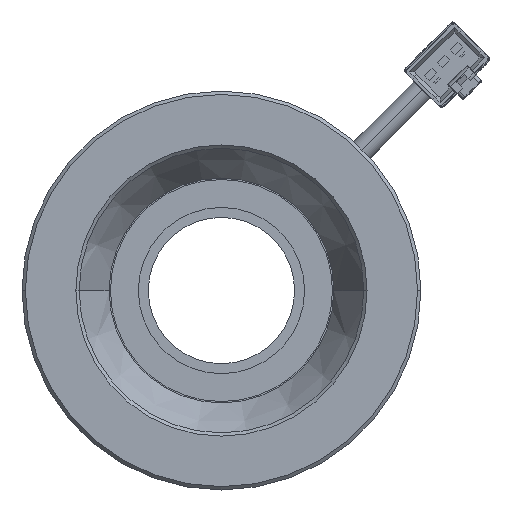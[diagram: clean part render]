
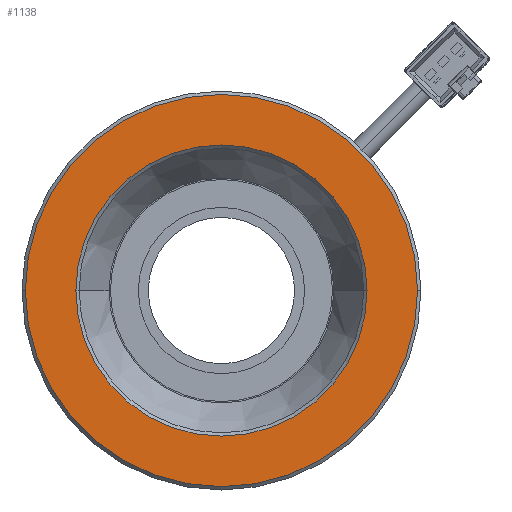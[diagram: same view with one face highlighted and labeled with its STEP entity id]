
A CAD part, front view. The second image highlights one B-rep face of the part: STEP entity #1138.
In plain terms, the highlighted planar face has unit normal (0, -1, 0).
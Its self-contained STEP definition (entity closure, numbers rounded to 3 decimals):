
#327=CARTESIAN_POINT('',(0.,-18.,0.));
#328=DIRECTION('',(0.,1.,0.));
#329=DIRECTION('',(1.,0.,0.));
#330=AXIS2_PLACEMENT_3D('',#327,#328,#329);
#332=CARTESIAN_POINT('',(0.,-18.,0.));
#333=DIRECTION('',(0.,1.,0.));
#334=DIRECTION('',(-1.,0.,0.));
#335=AXIS2_PLACEMENT_3D('',#332,#333,#334);
#337=CARTESIAN_POINT('',(0.,-18.,0.));
#338=DIRECTION('',(0.,-1.,0.));
#339=DIRECTION('',(1.,0.,0.));
#340=AXIS2_PLACEMENT_3D('',#337,#338,#339);
#342=CARTESIAN_POINT('',(0.,-18.,0.));
#343=DIRECTION('',(0.,-1.,0.));
#344=DIRECTION('',(-1.,0.,0.));
#345=AXIS2_PLACEMENT_3D('',#342,#343,#344);
#593=CARTESIAN_POINT('',(-29.5,-18.,0.));
#594=VERTEX_POINT('',#593);
#595=CARTESIAN_POINT('',(29.5,-18.,0.));
#596=VERTEX_POINT('',#595);
#597=CARTESIAN_POINT('',(21.904,-18.,0.));
#598=CARTESIAN_POINT('',(-21.904,-18.,0.));
#599=VERTEX_POINT('',#597);
#600=VERTEX_POINT('',#598);
#1123=CARTESIAN_POINT('',(0.,-18.,0.));
#1124=DIRECTION('',(0.,1.,0.));
#1125=DIRECTION('',(1.,0.,0.));
#1126=AXIS2_PLACEMENT_3D('',#1123,#1124,#1125);
#1127=PLANE('',#1126);
#1128=ORIENTED_EDGE('',*,*,#1102,.T.);
#1129=ORIENTED_EDGE('',*,*,#1118,.T.);
#1130=EDGE_LOOP('',(#1128,#1129));
#1131=FACE_OUTER_BOUND('',#1130,.F.);
#1133=ORIENTED_EDGE('',*,*,#1132,.T.);
#1135=ORIENTED_EDGE('',*,*,#1134,.T.);
#1136=EDGE_LOOP('',(#1133,#1135));
#1137=FACE_BOUND('',#1136,.F.);
#331=CIRCLE('',#330,29.5);
#336=CIRCLE('',#335,29.5);
#341=CIRCLE('',#340,21.904);
#346=CIRCLE('',#345,21.904);
#1102=EDGE_CURVE('',#596,#594,#331,.T.);
#1118=EDGE_CURVE('',#594,#596,#336,.T.);
#1132=EDGE_CURVE('',#599,#600,#341,.T.);
#1134=EDGE_CURVE('',#600,#599,#346,.T.);
#1138=ADVANCED_FACE('',(#1131,#1137),#1127,.F.);
